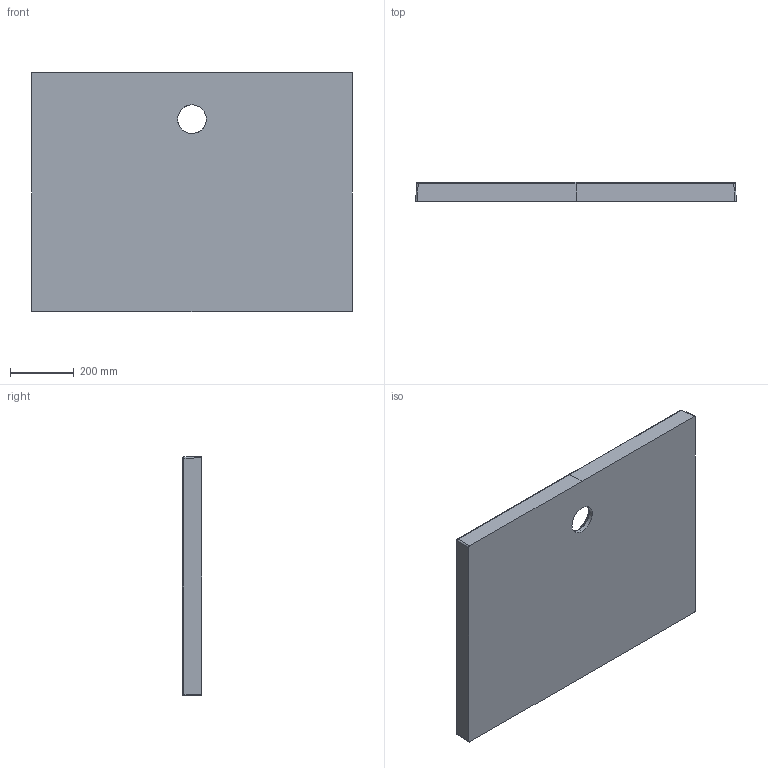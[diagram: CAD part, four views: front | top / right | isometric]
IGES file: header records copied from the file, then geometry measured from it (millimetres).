
Start section: START RECORD GO HERE.
Global section: file name: 1022_3D.igs; native system: DASSAULT SYSTEMES CATIA V5 R19 - www.3ds.com; preprocessor: CATIA Version 5 Release 19 SP 5 ; author: Luca; organization: DESKTOP-V7SON24; date: 20201124.144425; units: millimetre
Bounding box: 1006.29 x 60 x 753.14 mm (x, y, z)
Surface area: 1747315.4 mm2 (no closed solid volume)
Topology: 0 solids, 0 shells, 375 faces, 1750 edges, 1748 vertices
Faces by surface type: bspline 346, revolution 20, plane 5, extrusion 4
